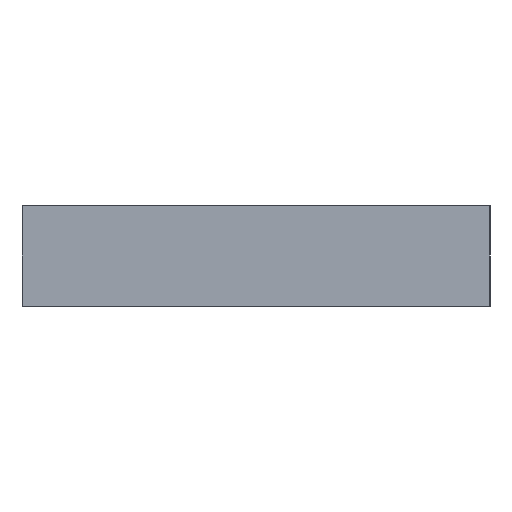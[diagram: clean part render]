
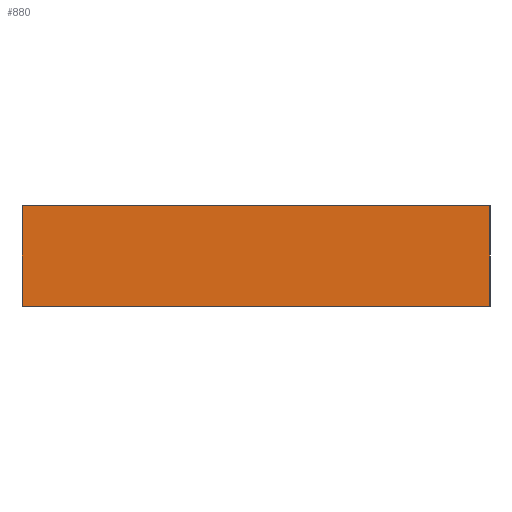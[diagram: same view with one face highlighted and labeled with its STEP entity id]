
A CAD part, front view. The second image highlights one B-rep face of the part: STEP entity #880.
In plain terms, the highlighted planar face has unit normal (0, -1, 0).
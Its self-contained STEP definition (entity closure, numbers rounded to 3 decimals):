
#1 = VERTEX_POINT ( 'NONE', #681 ) ;
#65 = VECTOR ( 'NONE', #512, 1000. ) ;
#106 = EDGE_CURVE ( 'NONE', #380, #283, #189, .T. ) ;
#172 = LINE ( 'NONE', #782, #957 ) ;
#189 = LINE ( 'NONE', #226, #762 ) ;
#195 = DIRECTION ( 'NONE',  ( 1., 0., 0. ) ) ;
#226 = CARTESIAN_POINT ( 'NONE',  ( 0., -758.5, 0. ) ) ;
#256 = PLANE ( 'NONE',  #908 ) ;
#281 = EDGE_CURVE ( 'NONE', #392, #380, #172, .T. ) ;
#283 = VERTEX_POINT ( 'NONE', #338 ) ;
#335 = DIRECTION ( 'NONE',  ( 0., 1., 0. ) ) ;
#338 = CARTESIAN_POINT ( 'NONE',  ( 7., -758.5, 0. ) ) ;
#357 = ORIENTED_EDGE ( 'NONE', *, *, #106, .T. ) ;
#380 = VERTEX_POINT ( 'NONE', #799 ) ;
#388 = EDGE_CURVE ( 'NONE', #392, #1, #887, .T. ) ;
#392 = VERTEX_POINT ( 'NONE', #501 ) ;
#429 = CARTESIAN_POINT ( 'NONE',  ( 0., -758.5, 3. ) ) ;
#439 = CARTESIAN_POINT ( 'NONE',  ( 7., -758.5, 3. ) ) ;
#465 = FACE_OUTER_BOUND ( 'NONE', #693, .T. ) ;
#479 = EDGE_CURVE ( 'NONE', #1, #283, #632, .T. ) ;
#501 = CARTESIAN_POINT ( 'NONE',  ( -7., -758.5, 3. ) ) ;
#512 = DIRECTION ( 'NONE',  ( 0., 0., -1. ) ) ;
#555 = CARTESIAN_POINT ( 'NONE',  ( 0., -758.5, 3. ) ) ;
#606 = ORIENTED_EDGE ( 'NONE', *, *, #479, .F. ) ;
#622 = ORIENTED_EDGE ( 'NONE', *, *, #388, .F. ) ;
#632 = LINE ( 'NONE', #439, #65 ) ;
#636 = DIRECTION ( 'NONE',  ( 0., 0., -1. ) ) ;
#662 = DIRECTION ( 'NONE',  ( 1., 0., 0. ) ) ;
#681 = CARTESIAN_POINT ( 'NONE',  ( 7., -758.5, 3. ) ) ;
#693 = EDGE_LOOP ( 'NONE', ( #357, #606, #622, #729 ) ) ;
#696 = VECTOR ( 'NONE', #195, 1000. ) ;
#729 = ORIENTED_EDGE ( 'NONE', *, *, #281, .T. ) ;
#762 = VECTOR ( 'NONE', #662, 1000. ) ;
#782 = CARTESIAN_POINT ( 'NONE',  ( -7., -758.5, 3. ) ) ;
#799 = CARTESIAN_POINT ( 'NONE',  ( -7., -758.5, 0. ) ) ;
#859 = DIRECTION ( 'NONE',  ( 0., 0., 1. ) ) ;
#880 = ADVANCED_FACE ( 'NONE', ( #465 ), #256, .F. ) ;
#887 = LINE ( 'NONE', #429, #696 ) ;
#908 = AXIS2_PLACEMENT_3D ( 'NONE', #555, #335, #859 ) ;
#957 = VECTOR ( 'NONE', #636, 1000. ) ;
